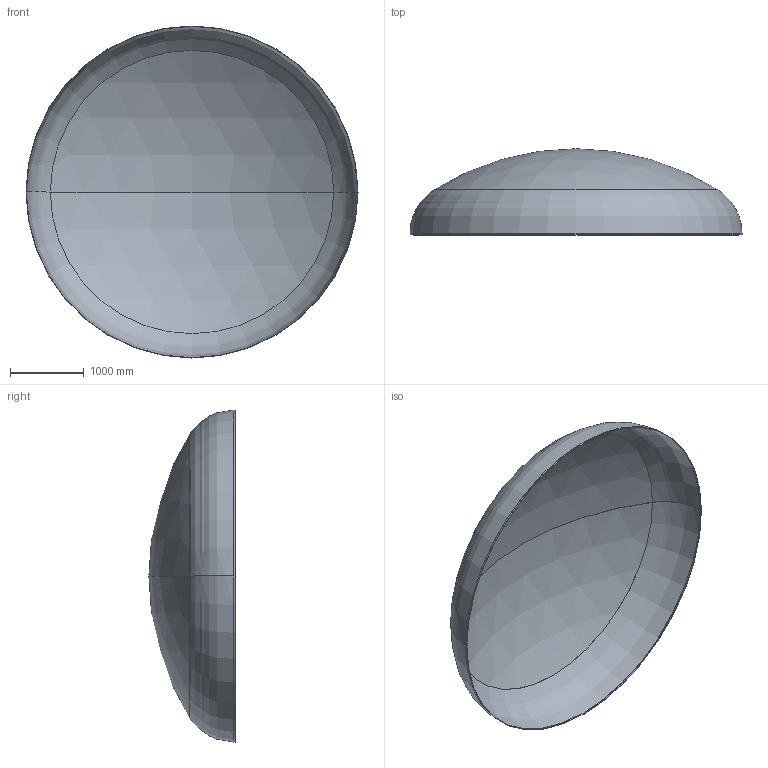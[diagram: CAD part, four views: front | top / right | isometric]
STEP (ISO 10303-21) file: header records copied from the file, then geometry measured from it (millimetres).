
FILE_DESCRIPTION (( 'STEP AP203' ), '1' );
FILE_NAME ('DIN 28013 Korbbogenform_-_Boden DIN 28013 - 4500 x 20 - I - s=5.step', '2016-07-01T22:57:35', ( '' ), ( '' ), 'SwSTEP 2.0', 'SolidWorks 2013', '' );
FILE_SCHEMA (( 'CONFIG_CONTROL_DESIGN' ));
Length unit declared in the file: millimetre
Products named in the file (1): DIN 28013 Korbbogenform_-_Boden DIN 28013 - 4500 x 20 - I - s=5
Bounding box: 4500 x 1168.07 x 4500 mm (x, y, z)
Volume: 111460620.8 mm3; surface area: 44654889.4 mm2
Topology: 1 solids, 1 shells, 13 faces, 24 edges, 14 vertices
Faces by surface type: torus 4, cylinder 4, sphere 4, plane 1
Entity records: 407 total; most frequent: DIRECTION 72, CARTESIAN_POINT 52, ORIENTED_EDGE 48, AXIS2_PLACEMENT_3D 34, EDGE_CURVE 24, CIRCLE 20, VERTEX_POINT 14, EDGE_LOOP 14
